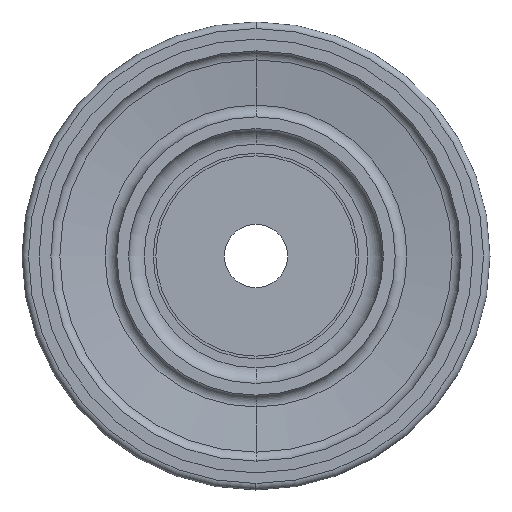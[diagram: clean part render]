
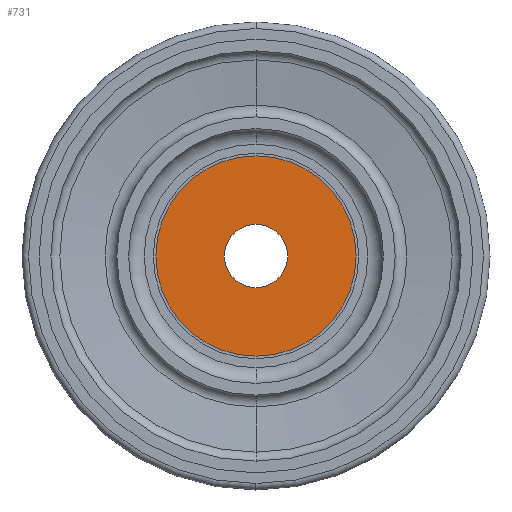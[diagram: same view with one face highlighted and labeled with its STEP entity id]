
A CAD part, front view. The second image highlights one B-rep face of the part: STEP entity #731.
In plain terms, the highlighted planar face has unit normal (0, -1, 0).
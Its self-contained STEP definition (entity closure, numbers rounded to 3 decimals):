
#3 = CIRCLE ( 'NONE', #191, 19.25 ) ;
#24 = DIRECTION ( 'NONE',  ( 0., 0., -1. ) ) ;
#49 = FACE_BOUND ( 'NONE', #514, .T. ) ;
#103 = DIRECTION ( 'NONE',  ( 0., 0., -1. ) ) ;
#121 = CIRCLE ( 'NONE', #755, 6.1 ) ;
#191 = AXIS2_PLACEMENT_3D ( 'NONE', #1090, #989, #591 ) ;
#204 = DIRECTION ( 'NONE',  ( 0., 0., -1. ) ) ;
#207 = EDGE_CURVE ( 'NONE', #302, #703, #628, .T. ) ;
#279 = DIRECTION ( 'NONE',  ( 0., 0., -1. ) ) ;
#285 = CARTESIAN_POINT ( 'NONE',  ( 3.406, 50.232, 84.663 ) ) ;
#302 = VERTEX_POINT ( 'NONE', #776 ) ;
#319 = PLANE ( 'NONE',  #843 ) ;
#325 = DIRECTION ( 'NONE',  ( 0., -1., 0. ) ) ;
#387 = AXIS2_PLACEMENT_3D ( 'NONE', #899, #597, #204 ) ;
#395 = DIRECTION ( 'NONE',  ( 0., -1., 0. ) ) ;
#410 = EDGE_CURVE ( 'NONE', #1036, #722, #3, .T. ) ;
#412 = CARTESIAN_POINT ( 'NONE',  ( 3.406, 50.232, 90.763 ) ) ;
#483 = ORIENTED_EDGE ( 'NONE', *, *, #1229, .F. ) ;
#514 = EDGE_LOOP ( 'NONE', ( #667, #483 ) ) ;
#591 = DIRECTION ( 'NONE',  ( 0., 0., -1. ) ) ;
#597 = DIRECTION ( 'NONE',  ( 0., -1., 0. ) ) ;
#628 = CIRCLE ( 'NONE', #387, 6.1 ) ;
#667 = ORIENTED_EDGE ( 'NONE', *, *, #207, .F. ) ;
#703 = VERTEX_POINT ( 'NONE', #412 ) ;
#722 = VERTEX_POINT ( 'NONE', #1012 ) ;
#731 = ADVANCED_FACE ( 'NONE', ( #841, #49 ), #319, .T. ) ;
#748 = ORIENTED_EDGE ( 'NONE', *, *, #410, .T. ) ;
#755 = AXIS2_PLACEMENT_3D ( 'NONE', #859, #980, #279 ) ;
#776 = CARTESIAN_POINT ( 'NONE',  ( 3.406, 50.232, 78.563 ) ) ;
#802 = ORIENTED_EDGE ( 'NONE', *, *, #911, .T. ) ;
#829 = AXIS2_PLACEMENT_3D ( 'NONE', #285, #395, #103 ) ;
#841 = FACE_OUTER_BOUND ( 'NONE', #1147, .T. ) ;
#843 = AXIS2_PLACEMENT_3D ( 'NONE', #1228, #325, #24 ) ;
#844 = CARTESIAN_POINT ( 'NONE',  ( 3.406, 50.232, 65.413 ) ) ;
#859 = CARTESIAN_POINT ( 'NONE',  ( 3.406, 50.232, 84.663 ) ) ;
#899 = CARTESIAN_POINT ( 'NONE',  ( 3.406, 50.232, 84.663 ) ) ;
#911 = EDGE_CURVE ( 'NONE', #722, #1036, #1116, .T. ) ;
#980 = DIRECTION ( 'NONE',  ( 0., -1., 0. ) ) ;
#989 = DIRECTION ( 'NONE',  ( 0., -1., 0. ) ) ;
#1012 = CARTESIAN_POINT ( 'NONE',  ( 3.406, 50.232, 103.913 ) ) ;
#1036 = VERTEX_POINT ( 'NONE', #844 ) ;
#1090 = CARTESIAN_POINT ( 'NONE',  ( 3.406, 50.232, 84.663 ) ) ;
#1116 = CIRCLE ( 'NONE', #829, 19.25 ) ;
#1147 = EDGE_LOOP ( 'NONE', ( #748, #802 ) ) ;
#1228 = CARTESIAN_POINT ( 'NONE',  ( 22.656, 50.232, 84.663 ) ) ;
#1229 = EDGE_CURVE ( 'NONE', #703, #302, #121, .T. ) ;
